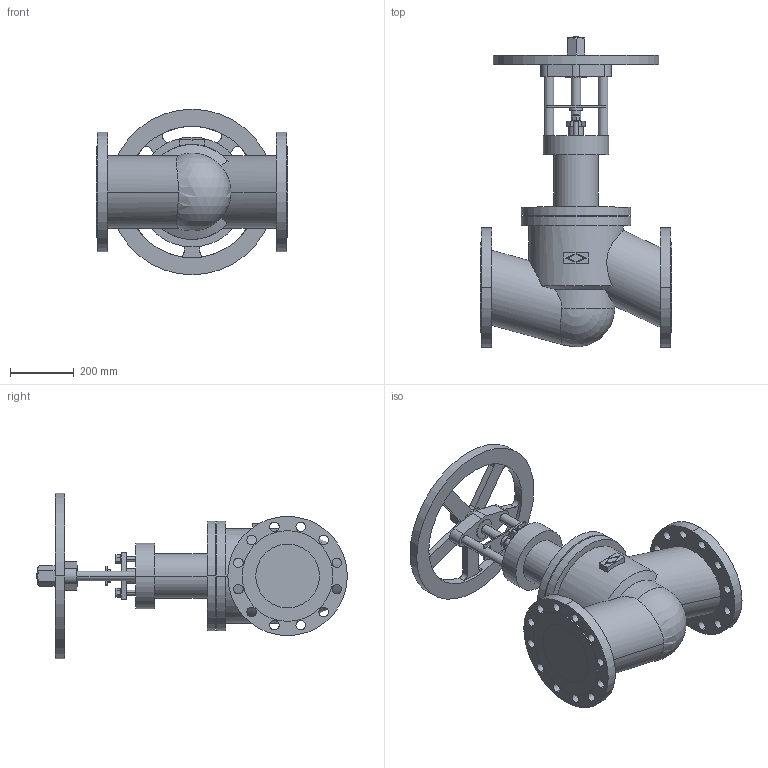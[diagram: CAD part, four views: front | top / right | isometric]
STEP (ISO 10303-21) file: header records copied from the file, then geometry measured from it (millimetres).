
FILE_DESCRIPTION(('Creo Elements/Direct Modeling STEP Export'),'2;1');
FILE_NAME('c000005009.stp','2012-09-19T12:00:23',(''),(''),'Creo Elements/Direct Modeling STEP processor for AP203 (Solid Model)','Creo Elements/Direct Modeling 17.0D 15-Jul-2011 (C) Parametric Technology GmbH','');
FILE_SCHEMA(('CONFIG_CONTROL_DESIGN'));
Length unit declared in the file: millimetre
Products named in the file (1): 1
Bounding box: 600 x 975.2 x 520 mm (x, y, z)
Volume: 54303618.5 mm3; surface area: 1873498.3 mm2
Topology: 1 solids, 1 shells, 262 faces, 697 edges, 462 vertices
Faces by surface type: cylinder 141, plane 116, cone 4, sphere 1
Entity records: 8194 total; most frequent: CARTESIAN_POINT 1654, ORIENTED_EDGE 1390, DIRECTION 1278, EDGE_CURVE 695, VERTEX_POINT 462, AXIS2_PLACEMENT_3D 457, VECTOR 364, LINE 364
